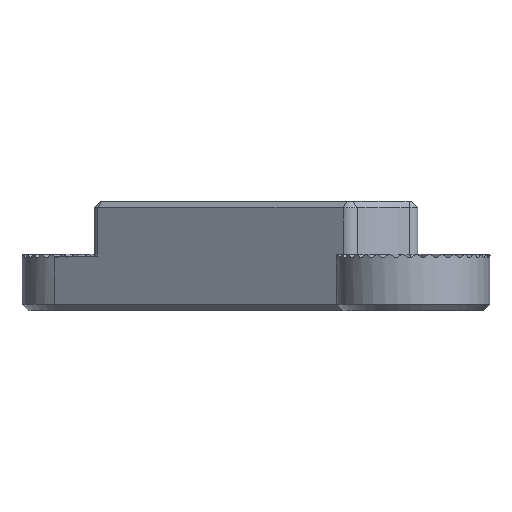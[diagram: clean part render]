
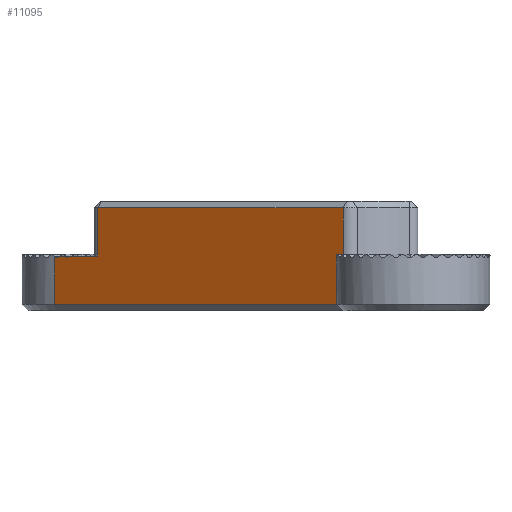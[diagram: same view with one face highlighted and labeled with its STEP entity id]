
A CAD part, left-side view. The second image highlights one B-rep face of the part: STEP entity #11095.
In plain terms, the highlighted planar face has unit normal (-0.819, 0.574, 0).
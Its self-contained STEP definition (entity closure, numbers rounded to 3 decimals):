
#1001=FACE_OUTER_BOUND('',#1661,.T.);
#1661=EDGE_LOOP('',(#8394,#8395,#8396,#8397,#8398,#8399,#8400,#8401,#8402));
#2605=LINE('',#17033,#3689);
#2608=LINE('',#17054,#3692);
#2625=LINE('',#17321,#3709);
#2629=LINE('',#17342,#3713);
#2633=LINE('',#17366,#3717);
#2634=LINE('',#17367,#3718);
#2635=LINE('',#17369,#3719);
#2636=LINE('',#17371,#3720);
#2637=LINE('',#17372,#3721);
#3689=VECTOR('',#13583,10.);
#3692=VECTOR('',#13608,10.);
#3709=VECTOR('',#13873,10.);
#3713=VECTOR('',#13899,10.);
#3717=VECTOR('',#13929,10.);
#3718=VECTOR('',#13930,10.);
#3719=VECTOR('',#13931,10.);
#3720=VECTOR('',#13932,10.);
#3721=VECTOR('',#13933,10.);
#4588=VERTEX_POINT('',#17023);
#4590=VERTEX_POINT('',#17029);
#4598=VERTEX_POINT('',#17052);
#4721=VERTEX_POINT('',#17311);
#4723=VERTEX_POINT('',#17317);
#4730=VERTEX_POINT('',#17340);
#4737=VERTEX_POINT('',#17365);
#4738=VERTEX_POINT('',#17368);
#4739=VERTEX_POINT('',#17370);
#5902=EDGE_CURVE('',#4588,#4590,#2605,.T.);
#5913=EDGE_CURVE('',#4598,#4588,#2608,.T.);
#6046=EDGE_CURVE('',#4721,#4723,#2625,.T.);
#6057=EDGE_CURVE('',#4730,#4721,#2629,.T.);
#6068=EDGE_CURVE('',#4598,#4737,#2633,.T.);
#6069=EDGE_CURVE('',#4723,#4737,#2634,.T.);
#6070=EDGE_CURVE('',#4738,#4730,#2635,.T.);
#6071=EDGE_CURVE('',#4738,#4739,#2636,.T.);
#6072=EDGE_CURVE('',#4739,#4590,#2637,.T.);
#8394=ORIENTED_EDGE('',*,*,#5902,.F.);
#8395=ORIENTED_EDGE('',*,*,#5913,.F.);
#8396=ORIENTED_EDGE('',*,*,#6068,.T.);
#8397=ORIENTED_EDGE('',*,*,#6069,.F.);
#8398=ORIENTED_EDGE('',*,*,#6046,.F.);
#8399=ORIENTED_EDGE('',*,*,#6057,.F.);
#8400=ORIENTED_EDGE('',*,*,#6070,.F.);
#8401=ORIENTED_EDGE('',*,*,#6071,.T.);
#8402=ORIENTED_EDGE('',*,*,#6072,.T.);
#10569=PLANE('',#11845);
#11095=ADVANCED_FACE('',(#1001),#10569,.T.);
#11845=AXIS2_PLACEMENT_3D('',#17364,#13927,#13928);
#13583=DIRECTION('',(0.574,0.819,0.));
#13608=DIRECTION('',(0.,0.,-1.));
#13873=DIRECTION('',(-0.574,-0.819,0.));
#13899=DIRECTION('',(0.,0.,1.));
#13927=DIRECTION('center_axis',(-0.819,0.574,0.));
#13928=DIRECTION('ref_axis',(0.574,0.819,0.));
#13929=DIRECTION('',(-0.574,-0.819,0.007));
#13930=DIRECTION('',(0.,0.,-1.));
#13931=DIRECTION('',(-0.574,-0.819,0.));
#13932=DIRECTION('',(0.,0.,-1.));
#13933=DIRECTION('',(0.,0.,-1.));
#17023=CARTESIAN_POINT('',(23.647,32.028,-22.));
#17029=CARTESIAN_POINT('',(115.651,163.423,-22.));
#17033=CARTESIAN_POINT('',(39.648,54.879,-22.));
#17052=CARTESIAN_POINT('',(23.647,32.028,0.574));
#17054=CARTESIAN_POINT('',(23.647,32.028,0.));
#17311=CARTESIAN_POINT('',(101.889,143.769,22.));
#17317=CARTESIAN_POINT('',(23.619,31.987,22.));
#17321=CARTESIAN_POINT('',(39.648,54.879,22.));
#17340=CARTESIAN_POINT('',(101.889,143.769,0.));
#17342=CARTESIAN_POINT('',(101.889,143.769,0.));
#17364=CARTESIAN_POINT('Origin',(21.002,28.251,0.));
#17365=CARTESIAN_POINT('',(23.619,31.987,0.575));
#17366=CARTESIAN_POINT('',(19.57,26.205,0.624));
#17367=CARTESIAN_POINT('',(23.619,31.987,0.));
#17368=CARTESIAN_POINT('',(115.651,163.423,0.));
#17369=CARTESIAN_POINT('',(39.648,54.879,0.));
#17370=CARTESIAN_POINT('',(115.651,163.423,-0.392));
#17371=CARTESIAN_POINT('',(115.651,163.423,0.));
#17372=CARTESIAN_POINT('',(115.651,163.423,0.));
